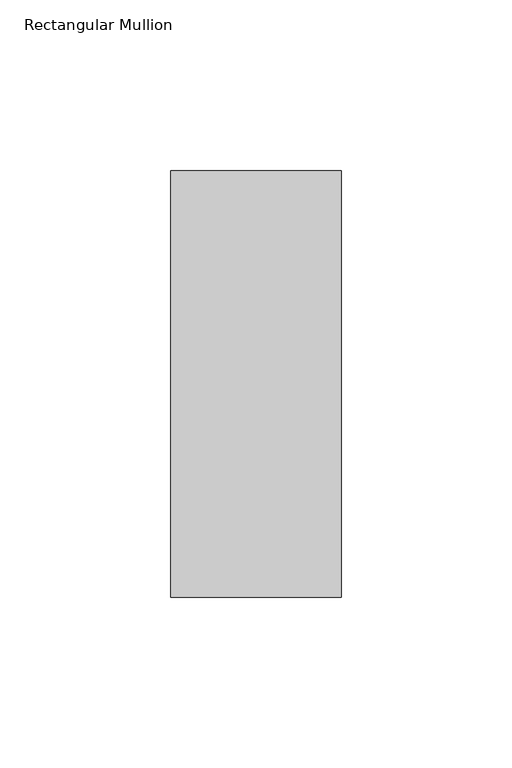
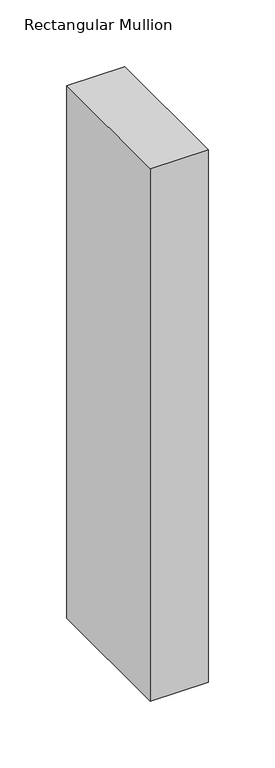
"""IFC4 building model written with IfcOpenShell, lengths in millimetres: member geometry, Rectangular Mullion : DucoSun Cubic Design profile 50x125 for louvre 500."""

from ifc_helpers import new_model, si_unit, frame, origin, place, context, project, spatial, polyline, outline, extrude, source, transform, mapped, element, save


def rectangular_mullion_b48c3bbc(model_context):
    return source(origin(), model_context, "Body", "SweptSolid", [
        extrude(outline(polyline([(0.0, -187.5), (0.0, -312.5), (-50.0, -312.5), (-50.0, -187.5), (0.0, -187.5)])), frame((0.0, 0.0, -486.4), z_axis=(0.0, 0.0, 1.0), x_axis=(1.0, 0.0, 0.0)), (0.0, 0.0, 1.0), 486.4),
    ])


if __name__ == "__main__":
    model = new_model("IFC4")
    model_context = context("Model", 3, world=origin())
    ifc_project = project(units=[si_unit("LENGTHUNIT", "METRE", prefix="MILLI")], contexts=[model_context])
    site = spatial("IfcSite", under=ifc_project)
    building = spatial("IfcBuilding", under=site)
    placement = place(None, origin())
    rectangular_mullion_shape = rectangular_mullion_b48c3bbc(model_context)
    element("IfcMember", 1, ObjectType="Rectangular Mullion : DucoSun Cubic Design profile 50x125 for louvre 500", at=placement, inside=building, context=model_context, shape_type="MappedRepresentation", body=[
        mapped(rectangular_mullion_shape, transform((0.0, 0.0, 0.0), x_axis=(1.0, 0.0, 0.0), y_axis=(0.0, 1.0, 0.0), z_axis=(0.0, 0.0, 1.0))),
    ])
    save(model, "model.ifc")
